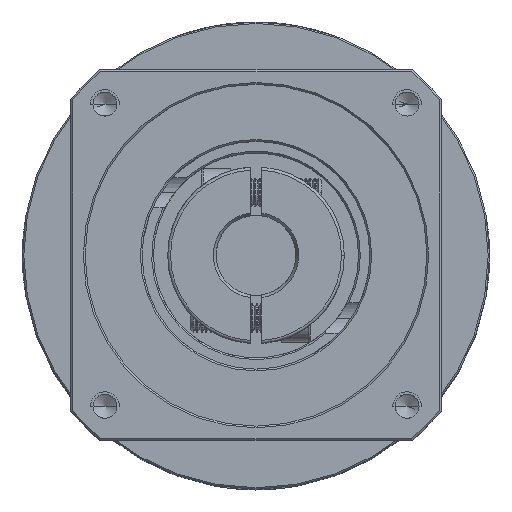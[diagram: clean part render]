
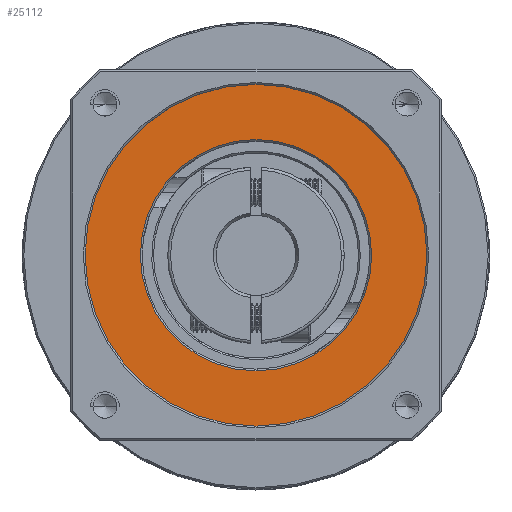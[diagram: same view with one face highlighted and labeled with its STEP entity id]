
A CAD part, top view. The second image highlights one B-rep face of the part: STEP entity #25112.
In plain terms, the highlighted planar face has unit normal (0, 0, 1).
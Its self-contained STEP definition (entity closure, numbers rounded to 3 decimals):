
#1026 = CARTESIAN_POINT ( 'NONE',  ( -73.632, 8.885, 27.837 ) ) ;
#4859 = EDGE_CURVE ( 'NONE', #123638, #94678, #78004, .T. ) ;
#11204 = DIRECTION ( 'NONE',  ( 1., 0., 0. ) ) ;
#12386 = EDGE_LOOP ( 'NONE', ( #17752, #86718 ) ) ;
#13901 = DIRECTION ( 'NONE',  ( 0., 0., 1. ) ) ;
#17752 = ORIENTED_EDGE ( 'NONE', *, *, #125030, .T. ) ;
#18756 = DIRECTION ( 'NONE',  ( 0., 0., 1. ) ) ;
#25112 = ADVANCED_FACE ( 'NONE', ( #73852, #127729 ), #33828, .T. ) ;
#27769 = AXIS2_PLACEMENT_3D ( 'NONE', #59410, #130185, #69610 ) ;
#31276 = CARTESIAN_POINT ( 'NONE',  ( -43.632, 8.885, 27.837 ) ) ;
#33828 = PLANE ( 'NONE',  #44770 ) ;
#37683 = AXIS2_PLACEMENT_3D ( 'NONE', #108562, #48071, #118768 ) ;
#43792 = AXIS2_PLACEMENT_3D ( 'NONE', #79295, #18756, #89521 ) ;
#44770 = AXIS2_PLACEMENT_3D ( 'NONE', #74433, #13901, #84644 ) ;
#48071 = DIRECTION ( 'NONE',  ( 0., 0., -1. ) ) ;
#59410 = CARTESIAN_POINT ( 'NONE',  ( -73.632, 8.885, 27.837 ) ) ;
#60378 = EDGE_CURVE ( 'NONE', #69123, #97349, #83245, .T. ) ;
#68258 = CARTESIAN_POINT ( 'NONE',  ( -93.932, 8.885, 27.837 ) ) ;
#69123 = VERTEX_POINT ( 'NONE', #81301 ) ;
#69610 = DIRECTION ( 'NONE',  ( 1., 0., 0. ) ) ;
#71700 = DIRECTION ( 'NONE',  ( 0., 0., 1. ) ) ;
#73534 = EDGE_CURVE ( 'NONE', #97349, #69123, #111034, .T. ) ;
#73852 = FACE_BOUND ( 'NONE', #12386, .T. ) ;
#74433 = CARTESIAN_POINT ( 'NONE',  ( -73.632, 8.885, 27.837 ) ) ;
#76234 = CARTESIAN_POINT ( 'NONE',  ( -53.332, 8.885, 27.837 ) ) ;
#77707 = CIRCLE ( 'NONE', #27769, 20.3 ) ;
#78004 = CIRCLE ( 'NONE', #37683, 20.3 ) ;
#79295 = CARTESIAN_POINT ( 'NONE',  ( -73.632, 8.885, 27.837 ) ) ;
#81301 = CARTESIAN_POINT ( 'NONE',  ( -103.632, 8.885, 27.837 ) ) ;
#83245 = CIRCLE ( 'NONE', #43792, 30. ) ;
#84644 = DIRECTION ( 'NONE',  ( 1., 0., 0. ) ) ;
#86718 = ORIENTED_EDGE ( 'NONE', *, *, #4859, .T. ) ;
#89521 = DIRECTION ( 'NONE',  ( 1., 0., 0. ) ) ;
#94134 = EDGE_LOOP ( 'NONE', ( #108936, #102331 ) ) ;
#94678 = VERTEX_POINT ( 'NONE', #76234 ) ;
#97349 = VERTEX_POINT ( 'NONE', #31276 ) ;
#100612 = AXIS2_PLACEMENT_3D ( 'NONE', #1026, #71700, #11204 ) ;
#102331 = ORIENTED_EDGE ( 'NONE', *, *, #60378, .T. ) ;
#108562 = CARTESIAN_POINT ( 'NONE',  ( -73.632, 8.885, 27.837 ) ) ;
#108936 = ORIENTED_EDGE ( 'NONE', *, *, #73534, .T. ) ;
#111034 = CIRCLE ( 'NONE', #100612, 30. ) ;
#118768 = DIRECTION ( 'NONE',  ( 1., 0., 0. ) ) ;
#123638 = VERTEX_POINT ( 'NONE', #68258 ) ;
#125030 = EDGE_CURVE ( 'NONE', #94678, #123638, #77707, .T. ) ;
#127729 = FACE_OUTER_BOUND ( 'NONE', #94134, .T. ) ;
#130185 = DIRECTION ( 'NONE',  ( 0., 0., -1. ) ) ;
